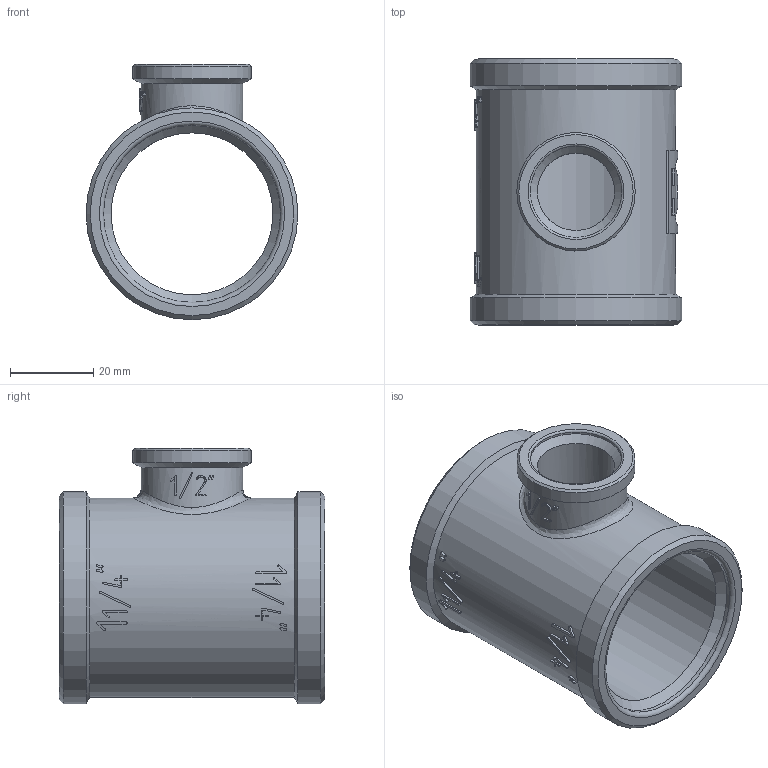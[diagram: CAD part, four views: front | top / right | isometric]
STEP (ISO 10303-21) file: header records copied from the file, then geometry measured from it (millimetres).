
FILE_DESCRIPTION(('STEP AP203'), '1');
FILE_NAME('ÂÐ.752243.010 - VTr.750.N.0704 - Ôèò. ðåçüá. òðîé', '2024-07-15T08:50:24', ('Boss'), (''), 'C3D Converter', 'C3D Toolkit', '');
FILE_SCHEMA(('CONFIG_CONTROL_DESIGN'));
Length unit declared in the file: millimetre
Products named in the file (1): ВР.752243.010
Bounding box: 51 x 64 x 61.5 mm (x, y, z)
Volume: 43230.6 mm3; surface area: 20989.9 mm2
Topology: 1 solids, 1 shells, 334 faces, 927 edges, 613 vertices
Faces by surface type: extrusion 184, plane 106, cylinder 31, cone 9, torus 3, bspline 1
Full cylindrical faces by diameter (mm): 18.632 x1, 22 x1, 24.5 x1, 28.5 x1, 38.953 x1, 42.6 x2, 48 x1, 51 x2
Entity records: 14876 total; most frequent: CARTESIAN_POINT 7477, ORIENTED_EDGE 1800, DIRECTION 938, EDGE_CURVE 900, VERTEX_POINT 612, B_SPLINE_CURVE_WITH_KNOTS 558, VECTOR 520, EDGE_LOOP 382
